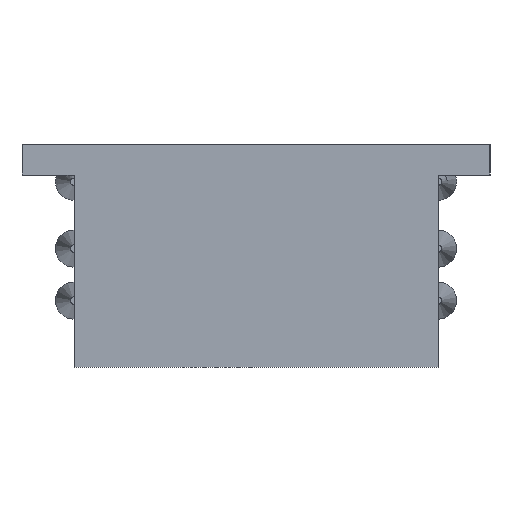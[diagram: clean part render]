
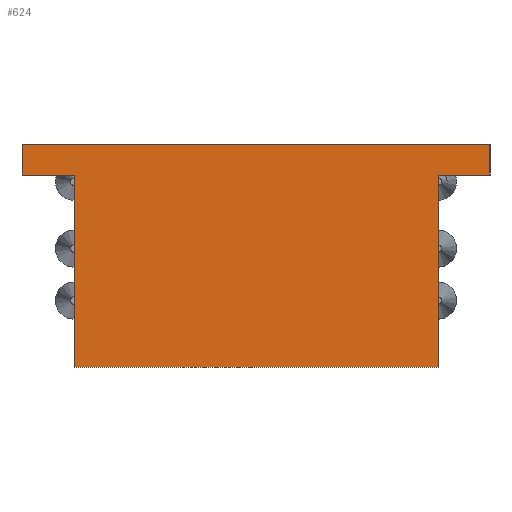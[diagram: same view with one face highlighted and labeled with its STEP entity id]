
A CAD part, left-side view. The second image highlights one B-rep face of the part: STEP entity #624.
In plain terms, the highlighted planar face has unit normal (-1, 0, 0).
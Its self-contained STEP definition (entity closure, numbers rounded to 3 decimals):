
#32 = VERTEX_POINT('',#33);
#33 = CARTESIAN_POINT('',(0.,98.,0.));
#39 = EDGE_CURVE('',#32,#40,#42,.T.);
#40 = VERTEX_POINT('',#41);
#41 = CARTESIAN_POINT('',(0.,98.,51.8));
#42 = LINE('',#43,#44);
#43 = CARTESIAN_POINT('',(0.,98.,0.));
#44 = VECTOR('',#45,1.);
#45 = DIRECTION('',(0.,0.,1.));
#603 = EDGE_CURVE('',#40,#604,#606,.T.);
#604 = VERTEX_POINT('',#605);
#605 = CARTESIAN_POINT('',(0.,112.,51.8));
#606 = LINE('',#607,#608);
#607 = CARTESIAN_POINT('',(0.,95.,51.8));
#608 = VECTOR('',#609,1.);
#609 = DIRECTION('',(-0.,1.,0.));
#624 = ADVANCED_FACE('',(#625),#675,.T.);
#625 = FACE_BOUND('',#626,.T.);
#626 = EDGE_LOOP('',(#627,#637,#645,#653,#661,#667,#668,#669));
#627 = ORIENTED_EDGE('',*,*,#628,.T.);
#628 = EDGE_CURVE('',#629,#631,#633,.T.);
#629 = VERTEX_POINT('',#630);
#630 = CARTESIAN_POINT('',(0.,0.,0.));
#631 = VERTEX_POINT('',#632);
#632 = CARTESIAN_POINT('',(0.,0.,51.8));
#633 = LINE('',#634,#635);
#634 = CARTESIAN_POINT('',(0.,0.,0.));
#635 = VECTOR('',#636,1.);
#636 = DIRECTION('',(0.,0.,1.));
#637 = ORIENTED_EDGE('',*,*,#638,.F.);
#638 = EDGE_CURVE('',#639,#631,#641,.T.);
#639 = VERTEX_POINT('',#640);
#640 = CARTESIAN_POINT('',(0.,-14.,51.8));
#641 = LINE('',#642,#643);
#642 = CARTESIAN_POINT('',(0.,-14.,51.8));
#643 = VECTOR('',#644,1.);
#644 = DIRECTION('',(-0.,1.,0.));
#645 = ORIENTED_EDGE('',*,*,#646,.T.);
#646 = EDGE_CURVE('',#639,#647,#649,.T.);
#647 = VERTEX_POINT('',#648);
#648 = CARTESIAN_POINT('',(0.,-14.,60.));
#649 = LINE('',#650,#651);
#650 = CARTESIAN_POINT('',(0.,-14.,51.8));
#651 = VECTOR('',#652,1.);
#652 = DIRECTION('',(0.,0.,1.));
#653 = ORIENTED_EDGE('',*,*,#654,.T.);
#654 = EDGE_CURVE('',#647,#655,#657,.T.);
#655 = VERTEX_POINT('',#656);
#656 = CARTESIAN_POINT('',(0.,112.,60.));
#657 = LINE('',#658,#659);
#658 = CARTESIAN_POINT('',(0.,-14.,60.));
#659 = VECTOR('',#660,1.);
#660 = DIRECTION('',(-0.,1.,0.));
#661 = ORIENTED_EDGE('',*,*,#662,.F.);
#662 = EDGE_CURVE('',#604,#655,#663,.T.);
#663 = LINE('',#664,#665);
#664 = CARTESIAN_POINT('',(0.,112.,51.8));
#665 = VECTOR('',#666,1.);
#666 = DIRECTION('',(0.,0.,1.));
#667 = ORIENTED_EDGE('',*,*,#603,.F.);
#668 = ORIENTED_EDGE('',*,*,#39,.F.);
#669 = ORIENTED_EDGE('',*,*,#670,.F.);
#670 = EDGE_CURVE('',#629,#32,#671,.T.);
#671 = LINE('',#672,#673);
#672 = CARTESIAN_POINT('',(0.,0.,0.));
#673 = VECTOR('',#674,1.);
#674 = DIRECTION('',(-0.,1.,0.));
#675 = PLANE('',#676);
#676 = AXIS2_PLACEMENT_3D('',#677,#678,#679);
#677 = CARTESIAN_POINT('',(0.,49.,33.899));
#678 = DIRECTION('',(-1.,-0.,-0.));
#679 = DIRECTION('',(0.,0.,-1.));
